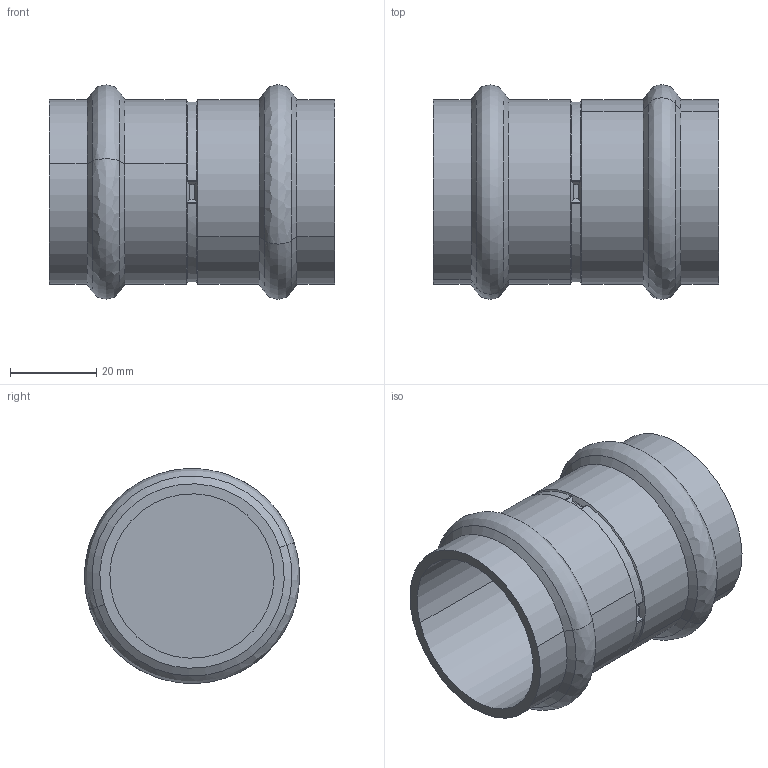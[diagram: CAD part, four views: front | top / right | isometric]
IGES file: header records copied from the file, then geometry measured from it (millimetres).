
Start section: 3D InterOp IGES (v. 2024 1.0.1), Spatial Corp. Copyright (c) 1999-2020.
Global section: file name: 704341.igs; native system: Spatial Corp.; preprocessor: 3D InterOp ACIS/IGES; author: CAD-PIM; organization: TransMagic, Inc.; date: 20250429.115957; units: millimetre
Bounding box: 66 x 49.73 x 49.67 mm (x, y, z)
Volume: 29950.1 mm3; surface area: 20369.3 mm2
Topology: 1 solids, 1 shells, 64 faces, 176 edges, 116 vertices
Faces by surface type: bspline 64
